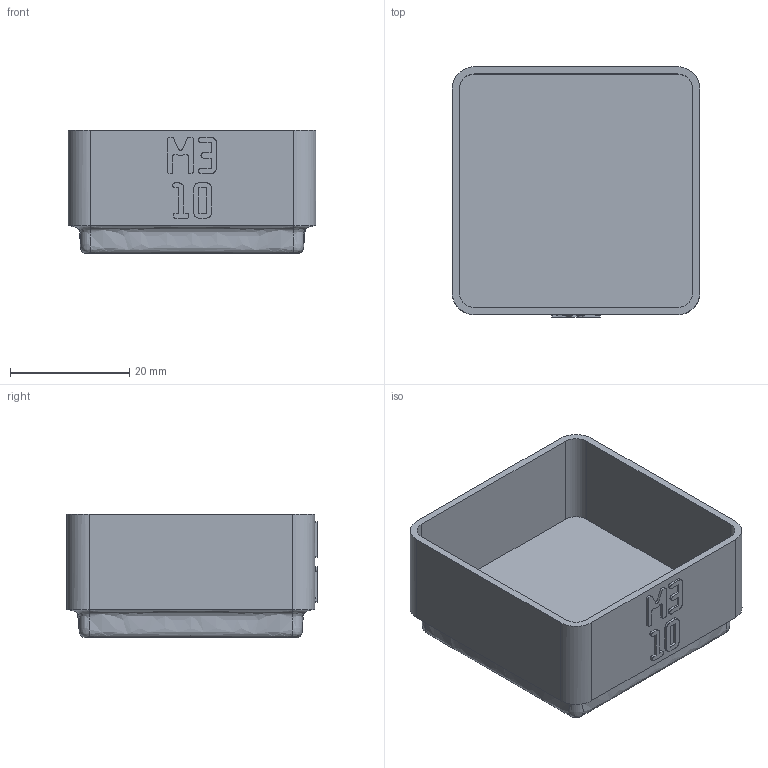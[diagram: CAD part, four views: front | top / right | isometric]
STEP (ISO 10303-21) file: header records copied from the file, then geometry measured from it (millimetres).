
FILE_DESCRIPTION(('Open CASCADE Model'),'2;1');
FILE_NAME('Open CASCADE Shape Model','2026-11-03T15:27:33',('Author'),( 'Open CASCADE'),'Open CASCADE STEP processor 8.0','build123d', 'Unknown');
FILE_SCHEMA(('AUTOMOTIVE_DESIGN { 1 0 10303 214 1 1 1 1 }'));
Length unit declared in the file: millimetre
Products named in the file (1): COMPOUND
Bounding box: 41.5 x 41.9 x 20.75 mm (x, y, z)
Volume: 9643.9 mm3; surface area: 8975.2 mm2
Topology: 1 solids, 1 shells, 415 faces, 1213 edges, 806 vertices
Faces by surface type: plane 399, bspline 8, cylinder 8
Entity records: 28896 total; most frequent: CARTESIAN_POINT 6215, DIRECTION 3645, LINE 2801, VECTOR 2801, ORIENTED_EDGE 2426, PCURVE 2426, DEFINITIONAL_REPRESENTATION 2426, EDGE_CURVE 1213
